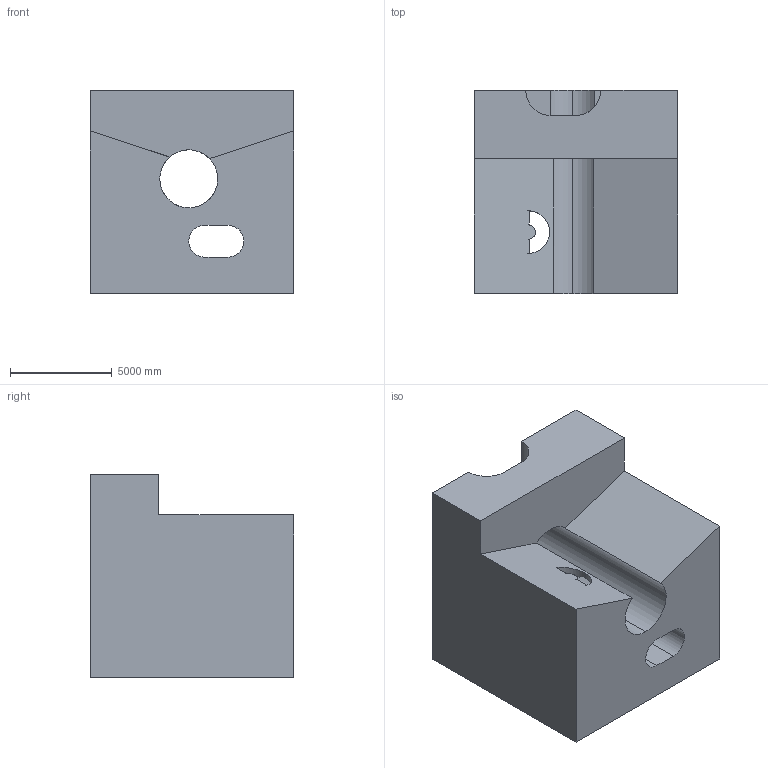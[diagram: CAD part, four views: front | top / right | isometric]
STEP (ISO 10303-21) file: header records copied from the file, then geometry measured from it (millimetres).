
FILE_DESCRIPTION (( 'STEP AP203' ), '1' );
FILE_NAME ('1500.STEP', '2022-08-18T14:51:40', ( 'user' ), ( '' ), 'SwSTEP 2.0', 'SolidWorks 2021', '' );
FILE_SCHEMA (( 'CONFIG_CONTROL_DESIGN' ));
Length unit declared in the file: centimetre
Products named in the file (1): 1500
Bounding box: 10000 x 10000 x 10000 mm (x, y, z)
Volume: 639888888704.2 mm3; surface area: 739247280.3 mm2
Topology: 1 solids, 1 shells, 29 faces, 93 edges, 62 vertices
Faces by surface type: plane 19, cylinder 10
Entity records: 1440 total; most frequent: CARTESIAN_POINT 519, ORIENTED_EDGE 186, DIRECTION 171, EDGE_CURVE 93, VERTEX_POINT 62, VECTOR 59, LINE 59, AXIS2_PLACEMENT_3D 56
